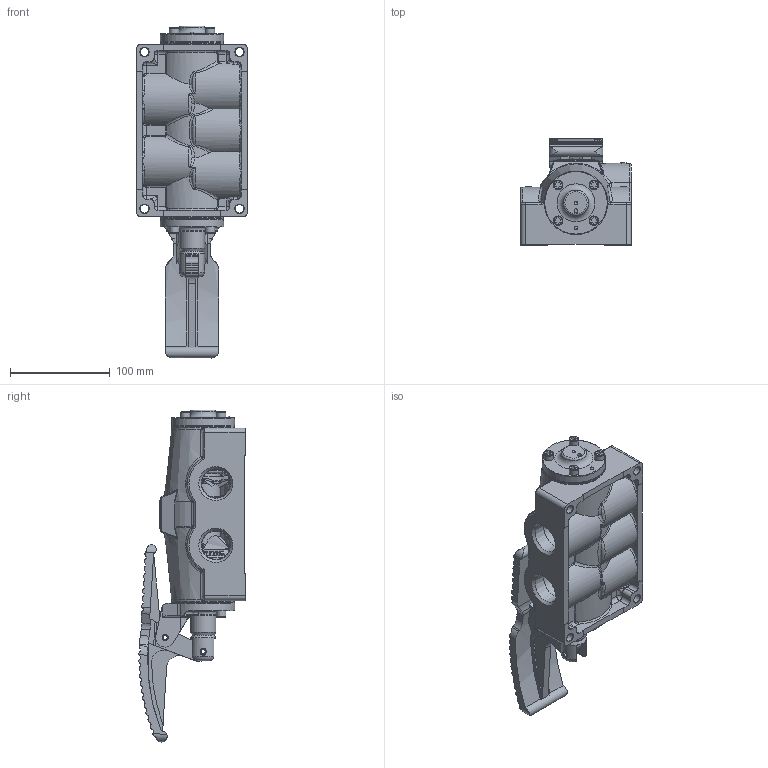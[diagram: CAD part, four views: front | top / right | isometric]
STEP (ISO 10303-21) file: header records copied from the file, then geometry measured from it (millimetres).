
FILE_DESCRIPTION(/* description */ (''),/* implementation_level */ '2;1');
FILE_NAME(/* name */ 'D:\Website Files\stp\Valves\Pedal\TD\TD8Q.stp',/* time_stamp */ '2015-05-01T16:12:51-04:00',/* author */ ('RMcKenna'),/* organization */ (''),/* preprocessor_version */ 'ST-DEVELOPER v15.6',/* originating_system */ 'Autodesk Inventor 2015',/* authorisation */ '');
FILE_SCHEMA (('AUTOMOTIVE_DESIGN { 1 0 10303 214 3 1 1 }'));
Products named in the file (1): Part8
Bounding box: 111.12 x 106.59 x 332.93 mm (x, y, z)
Volume: 1108685.9 mm3; surface area: 224928.7 mm2
Topology: 1 solids, 21 shells, 1985 faces, 4813 edges, 2924 vertices
Faces by surface type: plane 634, cylinder 503, cone 292, bspline 292, torus 181, sphere 83
Full cylindrical faces by diameter (mm): 2.261 x2, 2.778 x2, 3.175 x1, 3.962 x2, 3.969 x1, 4.978 x8, 6.35 x11, 6.401 x1, 7.137 x8, 7.144 x8, 8.712 x4, 9.525 x8, 10.414 x2, 15.081 x1, 17.323 x1, 19.05 x2, 19.253 x2, 25.349 x3, 25.4 x1, 27.305 x1, 28.219 x1, 28.575 x5, 34.29 x1, 34.569 x1, 34.671 x12, 34.925 x2, 35.052 x2, 41.478 x6, 62.706 x2, 63.5 x3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
Entity records: 80756 total; most frequent: CARTESIAN_POINT 35915, ORIENTED_EDGE 8948, DIRECTION 8423, EDGE_CURVE 4473, AXIS2_PLACEMENT_3D 3377, VERTEX_POINT 2847, EDGE_LOOP 2357, FACE_OUTER_BOUND 1985
